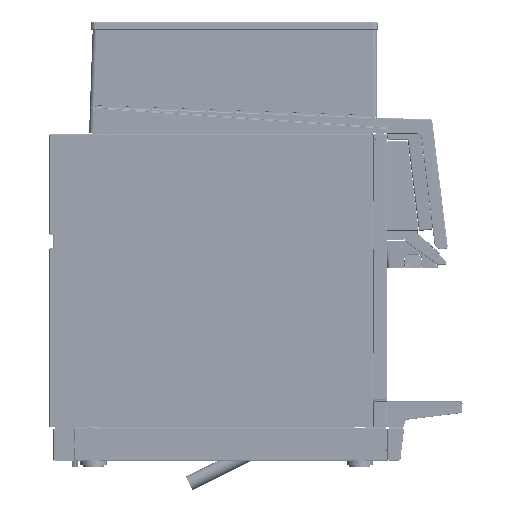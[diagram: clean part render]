
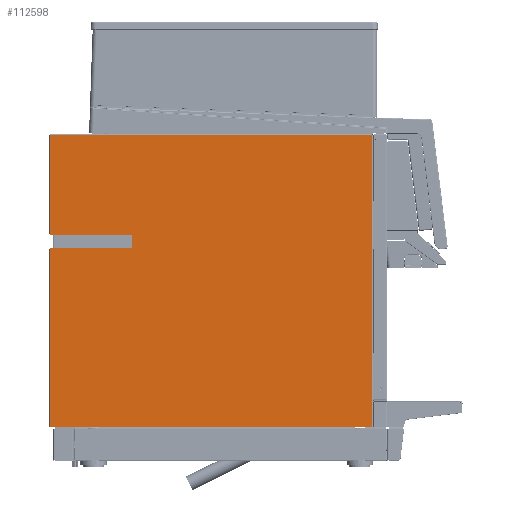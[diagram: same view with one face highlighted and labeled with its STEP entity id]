
A CAD part, left-side view. The second image highlights one B-rep face of the part: STEP entity #112598.
In plain terms, the highlighted planar face has unit normal (-1, 0, 0).
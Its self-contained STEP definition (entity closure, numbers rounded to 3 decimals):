
#5325=PLANE('',#131180);
#11092=LINE('',#210062,#22545);
#11093=LINE('',#210067,#22546);
#11098=LINE('',#210089,#22551);
#11099=LINE('',#210093,#22552);
#11108=LINE('',#210132,#22561);
#11166=LINE('',#210276,#22619);
#11167=LINE('',#210278,#22620);
#11168=LINE('',#210282,#22621);
#11169=LINE('',#210286,#22622);
#11170=LINE('',#210288,#22623);
#22545=VECTOR('',#152201,1000.);
#22546=VECTOR('',#152206,1000.);
#22551=VECTOR('',#152227,1000.);
#22552=VECTOR('',#152232,1000.);
#22561=VECTOR('',#152271,1000.);
#22619=VECTOR('',#152373,1000.);
#22620=VECTOR('',#152374,1000.);
#22621=VECTOR('',#152377,1000.);
#22622=VECTOR('',#152380,1000.);
#22623=VECTOR('',#152381,1000.);
#42213=ORIENTED_EDGE('',*,*,#64402,.F.);
#42214=ORIENTED_EDGE('',*,*,#64367,.F.);
#42215=ORIENTED_EDGE('',*,*,#64369,.F.);
#42216=ORIENTED_EDGE('',*,*,#64382,.F.);
#42217=ORIENTED_EDGE('',*,*,#64380,.F.);
#42218=ORIENTED_EDGE('',*,*,#64473,.T.);
#42219=ORIENTED_EDGE('',*,*,#64474,.T.);
#42220=ORIENTED_EDGE('',*,*,#64475,.F.);
#42221=ORIENTED_EDGE('',*,*,#64476,.T.);
#42222=ORIENTED_EDGE('',*,*,#64477,.F.);
#42223=ORIENTED_EDGE('',*,*,#64478,.T.);
#42224=ORIENTED_EDGE('',*,*,#64479,.T.);
#64367=EDGE_CURVE('',#84042,#84038,#11092,.T.);
#64369=EDGE_CURVE('',#84044,#84042,#11093,.T.);
#64380=EDGE_CURVE('',#84053,#84051,#11098,.T.);
#64382=EDGE_CURVE('',#84051,#84044,#11099,.T.);
#64402=EDGE_CURVE('',#84038,#84069,#11108,.T.);
#64473=EDGE_CURVE('',#84053,#84134,#11166,.T.);
#64474=EDGE_CURVE('',#84134,#84135,#11167,.T.);
#64475=EDGE_CURVE('',#84136,#84135,#96827,.T.);
#64476=EDGE_CURVE('',#84136,#84137,#11168,.T.);
#64477=EDGE_CURVE('',#84138,#84137,#96828,.T.);
#64478=EDGE_CURVE('',#84138,#84139,#11169,.T.);
#64479=EDGE_CURVE('',#84139,#84069,#11170,.T.);
#84038=VERTEX_POINT('',#210054);
#84042=VERTEX_POINT('',#210061);
#84044=VERTEX_POINT('',#210066);
#84051=VERTEX_POINT('',#210084);
#84053=VERTEX_POINT('',#210088);
#84069=VERTEX_POINT('',#210129);
#84134=VERTEX_POINT('',#210277);
#84135=VERTEX_POINT('',#210279);
#84136=VERTEX_POINT('',#210281);
#84137=VERTEX_POINT('',#210283);
#84138=VERTEX_POINT('',#210285);
#84139=VERTEX_POINT('',#210287);
#96827=CIRCLE('',#131181,0.5);
#96828=CIRCLE('',#131182,0.5);
#102890=EDGE_LOOP('',(#42213,#42214,#42215,#42216,#42217,#42218,#42219,
#42220,#42221,#42222,#42223,#42224));
#107858=FACE_BOUND('',#102890,.T.);
#112598=ADVANCED_FACE('',(#107858),#5325,.T.);
#131180=AXIS2_PLACEMENT_3D('',#210275,#152371,#152372);
#131181=AXIS2_PLACEMENT_3D('',#210280,#152375,#152376);
#131182=AXIS2_PLACEMENT_3D('',#210284,#152378,#152379);
#152201=DIRECTION('',(0.,1.,0.));
#152206=DIRECTION('',(0.,0.,-1.));
#152227=DIRECTION('',(0.,0.,1.));
#152232=DIRECTION('',(0.,-1.,0.));
#152271=DIRECTION('',(0.,0.,1.));
#152371=DIRECTION('',(-1.,0.,0.));
#152372=DIRECTION('',(0.,0.,1.));
#152373=DIRECTION('',(0.,0.,-1.));
#152374=DIRECTION('',(0.,-1.,0.));
#152375=DIRECTION('',(-1.,0.,0.));
#152376=DIRECTION('',(0.,-0.707,0.707));
#152377=DIRECTION('',(0.,0.,-1.));
#152378=DIRECTION('',(-1.,0.,0.));
#152379=DIRECTION('',(0.,-0.707,-0.707));
#152380=DIRECTION('',(0.,1.,0.));
#152381=DIRECTION('',(0.,0.,-1.));
#210054=CARTESIAN_POINT('',(-439.9,582.264,-12.986));
#210061=CARTESIAN_POINT('',(-439.9,114.664,-12.986));
#210062=CARTESIAN_POINT('',(-439.9,114.664,-12.986));
#210066=CARTESIAN_POINT('',(-439.9,114.664,410.614));
#210067=CARTESIAN_POINT('',(-439.9,114.664,410.614));
#210084=CARTESIAN_POINT('',(-439.9,582.264,410.614));
#210088=CARTESIAN_POINT('',(-439.9,582.264,267.014));
#210089=CARTESIAN_POINT('',(-439.9,582.264,267.014));
#210093=CARTESIAN_POINT('',(-439.9,582.264,410.614));
#210129=CARTESIAN_POINT('',(-439.9,582.264,244.614));
#210132=CARTESIAN_POINT('',(-439.9,582.264,-12.986));
#210275=CARTESIAN_POINT('',(-439.9,113.464,-14.186));
#210276=CARTESIAN_POINT('',(-439.9,582.264,267.014));
#210277=CARTESIAN_POINT('',(-439.9,582.264,265.814));
#210278=CARTESIAN_POINT('',(-439.9,582.264,265.814));
#210279=CARTESIAN_POINT('',(-439.9,463.964,265.814));
#210280=CARTESIAN_POINT('',(-439.9,463.964,265.314));
#210281=CARTESIAN_POINT('',(-439.9,463.464,265.314));
#210282=CARTESIAN_POINT('',(-439.9,463.464,265.314));
#210283=CARTESIAN_POINT('',(-439.9,463.464,246.314));
#210284=CARTESIAN_POINT('',(-439.9,463.964,246.314));
#210285=CARTESIAN_POINT('',(-439.9,463.964,245.814));
#210286=CARTESIAN_POINT('',(-439.9,463.964,245.814));
#210287=CARTESIAN_POINT('',(-439.9,582.264,245.814));
#210288=CARTESIAN_POINT('',(-439.9,582.264,245.814));
